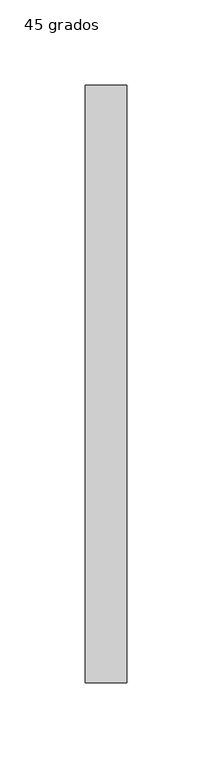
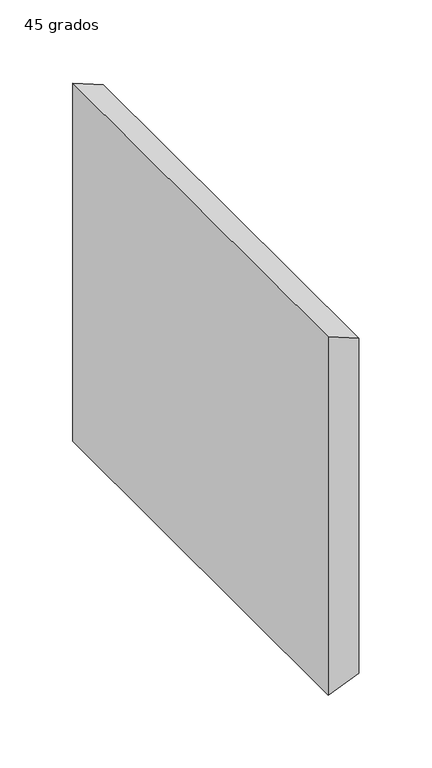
"""IFC4 building model written with IfcOpenShell, lengths in millimetres: duct fitting geometry, M_Transición rectangular - Ángulo : 45 grados."""

from ifc_helpers import new_model, si_unit, frame, origin, place, context, project, spatial, polyline, outline, extrude, source, transform, mapped, element, save


def duct_fitting_45_grados_729889f1(model_context):
    return source(origin(), model_context, "Body", "SweptSolid", [
        extrude(outline(polyline([(150.0, 0.0), (-150.0, 0.0), (-140.0, 24.1421356), (140.0, 24.1421356), (150.0, 0.0)])), frame((0.0, -175.0, 0.0), z_axis=(0.0, 1.0, 0.0), x_axis=(0.0, 0.0, 1.0)), (0.0, 0.0, 1.0), 350.0),
    ])


if __name__ == "__main__":
    model = new_model("IFC4")
    model_context = context("Model", 3, world=origin())
    ifc_project = project(units=[si_unit("LENGTHUNIT", "METRE", prefix="MILLI")], contexts=[model_context])
    site = spatial("IfcSite", under=ifc_project)
    building = spatial("IfcBuilding", under=site)
    placement = place(None, origin())
    duct_fitting_45_grados_shape = duct_fitting_45_grados_729889f1(model_context)
    element("IfcDuctFitting", 1, ObjectType="M_Transición rectangular - Ángulo : 45 grados", at=placement, inside=building, context=model_context, shape_type="MappedRepresentation", body=[
        mapped(duct_fitting_45_grados_shape, transform((0.0, 0.0, 0.0), x_axis=(1.0, 0.0, 0.0), y_axis=(0.0, 1.0, 0.0), z_axis=(0.0, 0.0, 1.0))),
    ])
    save(model, "model.ifc")
